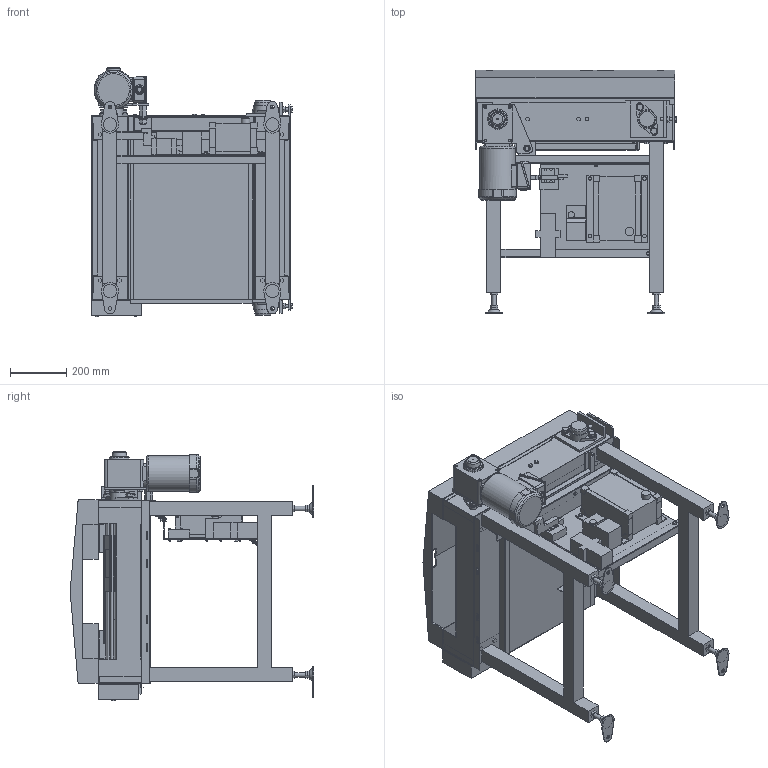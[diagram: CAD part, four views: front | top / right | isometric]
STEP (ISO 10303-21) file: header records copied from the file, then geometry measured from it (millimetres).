
FILE_DESCRIPTION( (''), '2;1');
FILE_NAME ('WEB-SLS-H-340-2-200-200-L-IVH-7.5.stp','2026-08-20T08:43:15',(''),(''),'spGate 21.9.5 (****-****-****-****)','','');
FILE_SCHEMA (('AUTOMOTIVE_DESIGN'));
Length unit declared in the file: millimetre
Products named in the file (81): WEB-SLS-H-340-2-200-200-L-IVH-7.5; TEMP_X_T-prt0; TEMP_X_T-prt1; TEMP_X_T-prt2; TEMP_X_T-prt3; TEMP_X_T-prt4; TEMP_X_T-prt5; TEMP_X_T-prt6; TEMP_X_T-prt7; TEMP_X_T-prt8; TEMP_X_T-prt9; TEMP_X_T-prt10; TEMP_X_T-prt11; TEMP_X_T-prt12; TEMP_X_T-prt13; TEMP_X_T-prt14; TEMP_X_T-prt15; TEMP_X_T-prt16; TEMP_X_T-prt17; TEMP_X_T-prt18; TEMP_X_T-prt19; TEMP_X_T-prt20; TEMP_X_T-prt21; TEMP_X_T-prt22; TEMP_X_T-prt23; TEMP_X_T-prt24; TEMP_X_T-prt25; TEMP_X_T-prt26; TEMP_X_T-prt27; TEMP_X_T-prt28; TEMP_X_T-prt29; TEMP_X_T-prt30; TEMP_X_T-prt31; TEMP_X_T-prt32; TEMP_X_T-prt33; TEMP_X_T-prt34; TEMP_X_T-prt35; TEMP_X_T-prt36; TEMP_X_T-prt37; TEMP_X_T-prt38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
Assembly tree (80 placements, depth 2):
  WEB-SLS-H-340-2-200-200-L-IVH-7.5
    TEMP_X_T-prt0
    TEMP_X_T-prt1
    TEMP_X_T-prt2
    TEMP_X_T-prt3
    TEMP_X_T-prt4
    TEMP_X_T-prt5
    TEMP_X_T-prt6
    TEMP_X_T-prt7
    TEMP_X_T-prt8
    TEMP_X_T-prt9
    TEMP_X_T-prt10
    TEMP_X_T-prt11
    TEMP_X_T-prt12
    TEMP_X_T-prt13
    TEMP_X_T-prt14
    TEMP_X_T-prt15
    TEMP_X_T-prt16
    TEMP_X_T-prt17
    TEMP_X_T-prt18
    TEMP_X_T-prt19
    TEMP_X_T-prt20
    TEMP_X_T-prt21
    TEMP_X_T-prt22
    TEMP_X_T-prt23
    TEMP_X_T-prt24
    TEMP_X_T-prt25
    TEMP_X_T-prt26
    TEMP_X_T-prt27
    TEMP_X_T-prt28
    TEMP_X_T-prt29
    TEMP_X_T-prt30
    TEMP_X_T-prt31
    TEMP_X_T-prt32
    TEMP_X_T-prt33
    TEMP_X_T-prt34
    TEMP_X_T-prt35
    TEMP_X_T-prt36
    TEMP_X_T-prt37
    TEMP_X_T-prt38
    TEMP_X_T-prt39
    TEMP_X_T-prt40
    TEMP_X_T-prt41
    TEMP_X_T-prt42
    TEMP_X_T-prt43
    TEMP_X_T-prt44
    TEMP_X_T-prt45
    TEMP_X_T-prt46
    TEMP_X_T-prt47
    TEMP_X_T-prt48
    TEMP_X_T-prt49
    TEMP_X_T-prt50
    TEMP_X_T-prt51
    TEMP_X_T-prt52
    TEMP_X_T-prt53
    TEMP_X_T-prt54
    TEMP_X_T-prt55
    TEMP_X_T-prt56
    TEMP_X_T-prt57
    TEMP_X_T-prt58
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Bounding box: 716 x 870.6 x 889.5 mm (x, y, z)
Volume: 42544248.1 mm3; surface area: 7849996.6 mm2
Topology: 80 solids, 80 shells, 2498 faces, 6403 edges, 4213 vertices
Faces by surface type: plane 1916, cylinder 463, bspline 115, sphere 4
Full cylindrical faces by diameter (mm): 4 x14, 4.15 x1, 5 x4, 6 x14, 8 x6, 8.376 x4, 8.5 x6, 9 x4, 9.2 x5, 10.5 x4, 11 x4, 11.8 x4, 12 x2, 12.2 x18, 12.5 x21, 13 x8, 14 x8, 15.4 x1, 16 x16, 18 x1, 20 x1, 21 x6, 22.2 x1, 23 x1, 24 x1, 25 x1, 28 x1, 30 x1, 30.5 x1, 34 x1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
Entity records: 131658 total; most frequent: CARTESIAN_POINT 16723, ORIENTED_EDGE 12798, DIRECTION 12452, COLOUR_RGB 8977, PRESENTATION_STYLE_ASSIGNMENT 8977, STYLED_ITEM 8977, EDGE_CURVE 6399, DRAUGHTING_PRE_DEFINED_CURVE_FONT 6399
